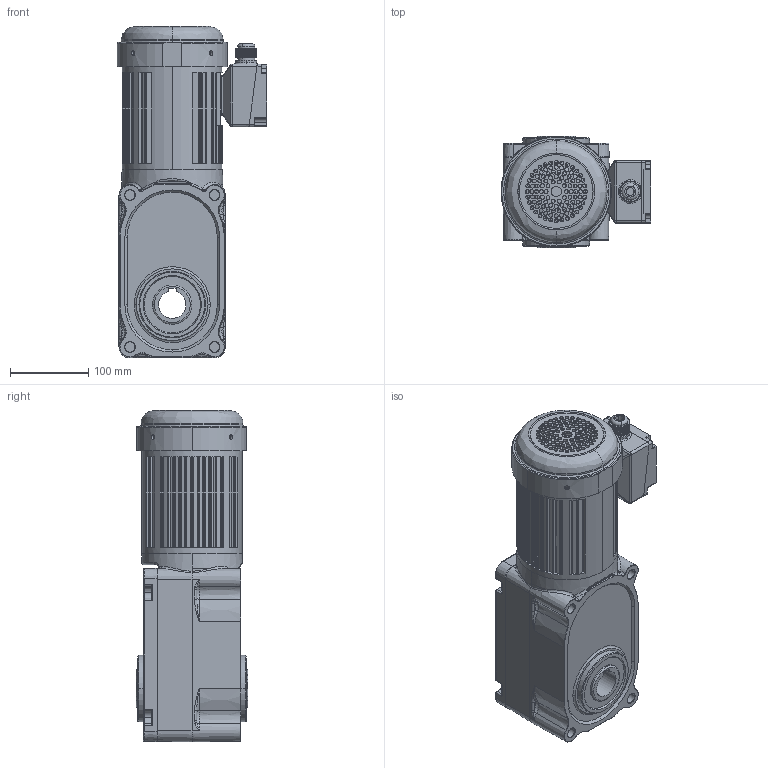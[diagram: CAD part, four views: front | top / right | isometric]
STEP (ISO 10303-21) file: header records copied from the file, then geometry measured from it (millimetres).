
FILE_DESCRIPTION (( 'STEP AP203' ), '1' );
FILE_NAME ('ZDF3-35H80K-240K-400-S3.STEP', '2020-05-05T06:49:29', ( '' ), ( '' ), 'SwSTEP 2.0', 'SolidWorks 2019', '' );
FILE_SCHEMA (( 'CONFIG_CONTROL_DESIGN' ));
Products named in the file (3): ZDF3-35H80K-240K-400-S3(B); ZDF3-35H80K-240K-400-S3; 嫖萇儂
Assembly tree (2 placements, depth 2):
  ZDF3-35H80K-240K-400-S3
    ZDF3-35H80K-240K-400-S3(B)
    嫖萇儂
Bounding box: 191.48 x 142 x 423.7 mm (x, y, z)
Volume: 3676252.8 mm3; surface area: 500250.7 mm2
Topology: 1 solids, 12 shells, 1918 faces, 5110 edges, 3275 vertices
Faces by surface type: cylinder 995, plane 497, cone 184, bspline 167, torus 57, sphere 18
Entity records: 73868 total; most frequent: CARTESIAN_POINT 26004, ORIENTED_EDGE 10132, DIRECTION 9921, EDGE_CURVE 5086, AXIS2_PLACEMENT_3D 3959, VERTEX_POINT 3275, EDGE_LOOP 2295, CIRCLE 2202
